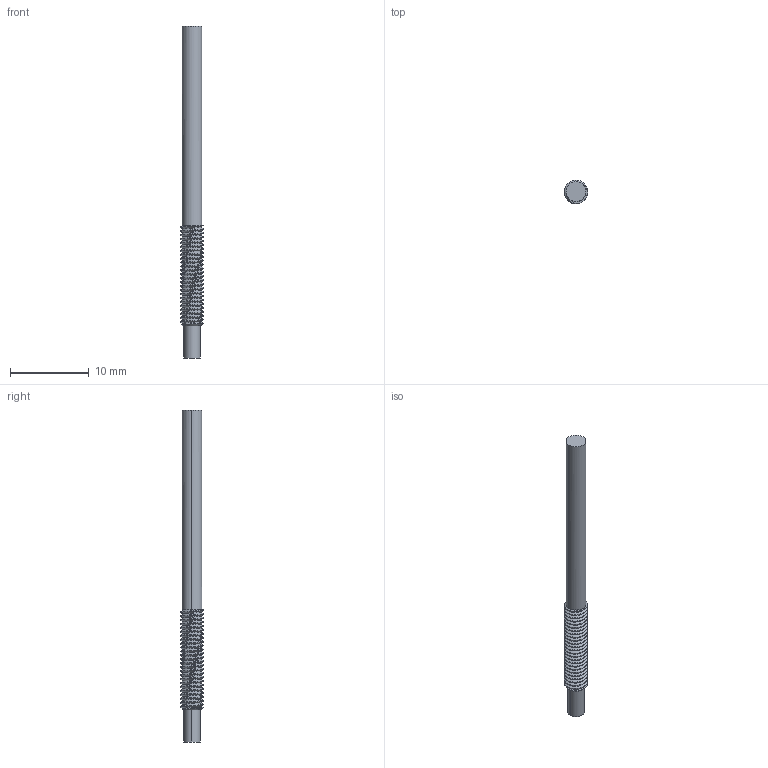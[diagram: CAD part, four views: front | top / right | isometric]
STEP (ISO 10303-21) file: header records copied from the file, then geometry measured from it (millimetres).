
FILE_DESCRIPTION (( 'STEP AP203' ), '1' );
FILE_NAME ('2u.STEP', '2010-03-05T18:49:50', ( 'tom edwards' ), ( 'Tom J. Edwards' ), 'SwSTEP 2.0', 'SolidWorks 2008', '' );
FILE_SCHEMA (( 'CONFIG_CONTROL_DESIGN' ));
Length unit declared in the file: inch
Products named in the file (1): 2u
Bounding box: 3 x 3 x 42.2 mm (x, y, z)
Volume: 215.7 mm3; surface area: 414.8 mm2
Topology: 1 solids, 1 shells, 66 faces, 186 edges, 123 vertices
Faces by surface type: cylinder 55, plane 5, cone 3, bspline 3
Entity records: 6025 total; most frequent: CARTESIAN_POINT 4564, ORIENTED_EDGE 372, DIRECTION 215, EDGE_CURVE 186, VERTEX_POINT 123, AXIS2_PLACEMENT_3D 79, EDGE_LOOP 67, FACE_OUTER_BOUND 66
